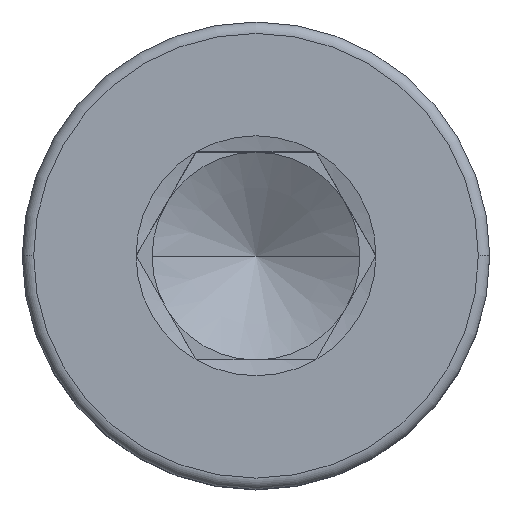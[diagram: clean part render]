
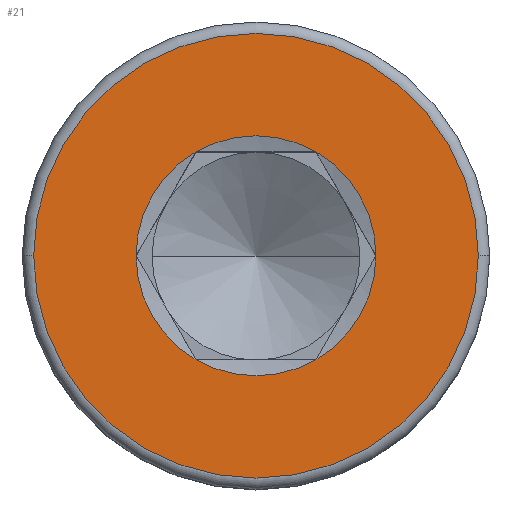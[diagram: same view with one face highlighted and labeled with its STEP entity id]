
A CAD part, top view. The second image highlights one B-rep face of the part: STEP entity #21.
In plain terms, the highlighted planar face has unit normal (0, 0, 1).
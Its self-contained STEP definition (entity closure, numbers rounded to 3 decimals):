
#21 = ADVANCED_FACE ( 'NONE', ( #1373, #260 ), #1486, .T. ) ;
#44 = EDGE_CURVE ( 'NONE', #648, #62, #491, .T. ) ;
#59 = DIRECTION ( 'NONE',  ( 1., 0., 0. ) ) ;
#62 = VERTEX_POINT ( 'NONE', #1040 ) ;
#81 = DIRECTION ( 'NONE',  ( 1., 0., 0. ) ) ;
#85 = ORIENTED_EDGE ( 'NONE', *, *, #1466, .F. ) ;
#96 = AXIS2_PLACEMENT_3D ( 'NONE', #669, #543, #187 ) ;
#99 = CARTESIAN_POINT ( 'NONE',  ( -2.14, 0., 2.5 ) ) ;
#105 = CARTESIAN_POINT ( 'NONE',  ( 0., 0., 2.5 ) ) ;
#130 = DIRECTION ( 'NONE',  ( 0., 0., 1. ) ) ;
#149 = DIRECTION ( 'NONE',  ( 1., 0., 0. ) ) ;
#187 = DIRECTION ( 'NONE',  ( 1., 0., 0. ) ) ;
#209 = EDGE_LOOP ( 'NONE', ( #925, #541 ) ) ;
#248 = CIRCLE ( 'NONE', #712, 1.155 ) ;
#260 = FACE_BOUND ( 'NONE', #1344, .T. ) ;
#261 = VERTEX_POINT ( 'NONE', #1049 ) ;
#294 = AXIS2_PLACEMENT_3D ( 'NONE', #1254, #852, #149 ) ;
#320 = ORIENTED_EDGE ( 'NONE', *, *, #1394, .F. ) ;
#374 = EDGE_CURVE ( 'NONE', #1418, #1022, #446, .T. ) ;
#375 = CARTESIAN_POINT ( 'NONE',  ( -0.577, 1., 2.5 ) ) ;
#378 = DIRECTION ( 'NONE',  ( 1., 0., 0. ) ) ;
#393 = AXIS2_PLACEMENT_3D ( 'NONE', #866, #130, #378 ) ;
#408 = VERTEX_POINT ( 'NONE', #747 ) ;
#446 = CIRCLE ( 'NONE', #989, 2.14 ) ;
#464 = CARTESIAN_POINT ( 'NONE',  ( 0., 0., 2.5 ) ) ;
#487 = VERTEX_POINT ( 'NONE', #503 ) ;
#491 = CIRCLE ( 'NONE', #393, 1.155 ) ;
#503 = CARTESIAN_POINT ( 'NONE',  ( -0.577, -1., 2.5 ) ) ;
#541 = ORIENTED_EDGE ( 'NONE', *, *, #374, .T. ) ;
#543 = DIRECTION ( 'NONE',  ( 0., 0., 1. ) ) ;
#648 = VERTEX_POINT ( 'NONE', #913 ) ;
#669 = CARTESIAN_POINT ( 'NONE',  ( 0., 0., 2.5 ) ) ;
#670 = DIRECTION ( 'NONE',  ( 0., 0., 1. ) ) ;
#671 = EDGE_CURVE ( 'NONE', #261, #648, #862, .T. ) ;
#684 = ORIENTED_EDGE ( 'NONE', *, *, #762, .F. ) ;
#688 = CARTESIAN_POINT ( 'NONE',  ( 0., 0., 2.5 ) ) ;
#712 = AXIS2_PLACEMENT_3D ( 'NONE', #958, #1563, #81 ) ;
#747 = CARTESIAN_POINT ( 'NONE',  ( -1.155, 0., 2.5 ) ) ;
#762 = EDGE_CURVE ( 'NONE', #408, #487, #966, .T. ) ;
#766 = ORIENTED_EDGE ( 'NONE', *, *, #671, .F. ) ;
#810 = AXIS2_PLACEMENT_3D ( 'NONE', #1032, #670, #59 ) ;
#815 = AXIS2_PLACEMENT_3D ( 'NONE', #105, #1436, #926 ) ;
#834 = DIRECTION ( 'NONE',  ( 0., 0., 1. ) ) ;
#843 = CIRCLE ( 'NONE', #1383, 2.14 ) ;
#852 = DIRECTION ( 'NONE',  ( 0., 0., 1. ) ) ;
#862 = CIRCLE ( 'NONE', #810, 1.155 ) ;
#865 = CIRCLE ( 'NONE', #96, 1.155 ) ;
#866 = CARTESIAN_POINT ( 'NONE',  ( 0., 0., 2.5 ) ) ;
#913 = CARTESIAN_POINT ( 'NONE',  ( 1.155, 0., 2.5 ) ) ;
#925 = ORIENTED_EDGE ( 'NONE', *, *, #1513, .T. ) ;
#926 = DIRECTION ( 'NONE',  ( 1., 0., 0. ) ) ;
#958 = CARTESIAN_POINT ( 'NONE',  ( 0., 0., 2.5 ) ) ;
#966 = CIRCLE ( 'NONE', #1041, 1.155 ) ;
#989 = AXIS2_PLACEMENT_3D ( 'NONE', #464, #834, #1326 ) ;
#1022 = VERTEX_POINT ( 'NONE', #1084 ) ;
#1032 = CARTESIAN_POINT ( 'NONE',  ( 0., 0., 2.5 ) ) ;
#1034 = EDGE_CURVE ( 'NONE', #1177, #408, #248, .T. ) ;
#1040 = CARTESIAN_POINT ( 'NONE',  ( 0.577, 1., 2.5 ) ) ;
#1041 = AXIS2_PLACEMENT_3D ( 'NONE', #688, #1182, #1205 ) ;
#1049 = CARTESIAN_POINT ( 'NONE',  ( 0.577, -1., 2.5 ) ) ;
#1059 = DIRECTION ( 'NONE',  ( 1., 0., 0. ) ) ;
#1084 = CARTESIAN_POINT ( 'NONE',  ( 2.14, 0., 2.5 ) ) ;
#1177 = VERTEX_POINT ( 'NONE', #375 ) ;
#1182 = DIRECTION ( 'NONE',  ( 0., 0., 1. ) ) ;
#1193 = ORIENTED_EDGE ( 'NONE', *, *, #1034, .F. ) ;
#1205 = DIRECTION ( 'NONE',  ( 1., 0., 0. ) ) ;
#1254 = CARTESIAN_POINT ( 'NONE',  ( 0., 0., 2.5 ) ) ;
#1320 = DIRECTION ( 'NONE',  ( 0., 0., 1. ) ) ;
#1326 = DIRECTION ( 'NONE',  ( 1., 0., 0. ) ) ;
#1344 = EDGE_LOOP ( 'NONE', ( #1361, #766, #85, #684, #1193, #320 ) ) ;
#1361 = ORIENTED_EDGE ( 'NONE', *, *, #44, .F. ) ;
#1373 = FACE_OUTER_BOUND ( 'NONE', #209, .T. ) ;
#1383 = AXIS2_PLACEMENT_3D ( 'NONE', #1448, #1320, #1059 ) ;
#1394 = EDGE_CURVE ( 'NONE', #62, #1177, #865, .T. ) ;
#1418 = VERTEX_POINT ( 'NONE', #99 ) ;
#1436 = DIRECTION ( 'NONE',  ( 0., 0., 1. ) ) ;
#1448 = CARTESIAN_POINT ( 'NONE',  ( 0., 0., 2.5 ) ) ;
#1466 = EDGE_CURVE ( 'NONE', #487, #261, #1512, .T. ) ;
#1486 = PLANE ( 'NONE',  #294 ) ;
#1512 = CIRCLE ( 'NONE', #815, 1.155 ) ;
#1513 = EDGE_CURVE ( 'NONE', #1022, #1418, #843, .T. ) ;
#1563 = DIRECTION ( 'NONE',  ( 0., 0., 1. ) ) ;
